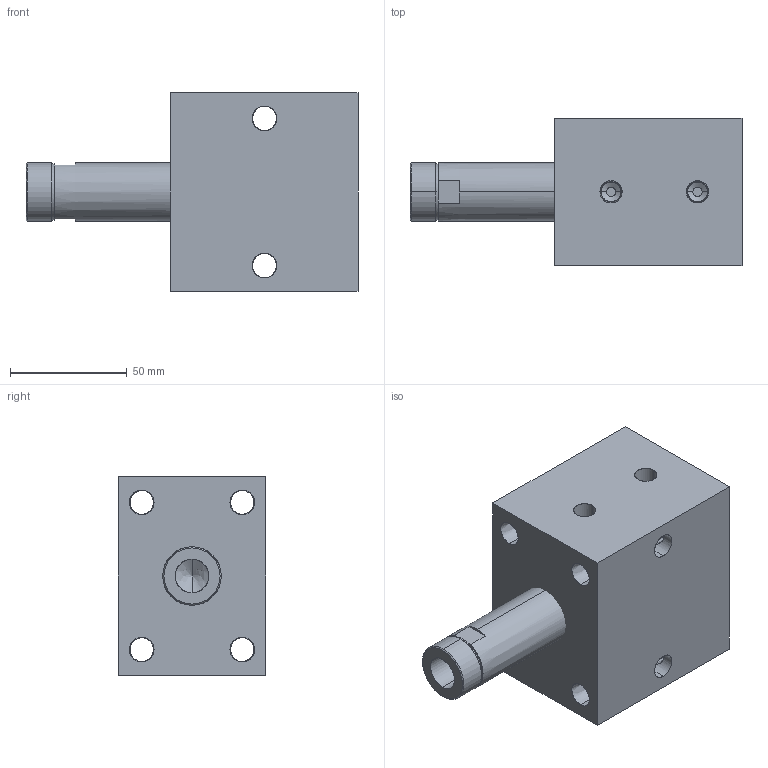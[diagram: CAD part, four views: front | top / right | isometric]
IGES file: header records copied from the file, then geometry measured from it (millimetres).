
Start section: SolidWorks IGES file using analytic representation for surfaces
Global section: file name: C:\Documents and Settings\rajib\Desktop\Rajib\BLOCK CYLINDER HYDRAULIC\0401-0406\IGS 0401-0406\0404.IGS; native system: SolidWorks 2007; preprocessor: SolidWorks 2007; author: rajib; date: 110121.102653; units: millimetre
Bounding box: 142 x 63 x 85 mm (x, y, z)
Surface area: 56560.6 mm2 (no closed solid volume)
Topology: 0 solids, 0 shells, 80 faces, 1752 edges, 1750 vertices
Faces by surface type: revolution 58, bspline 22
